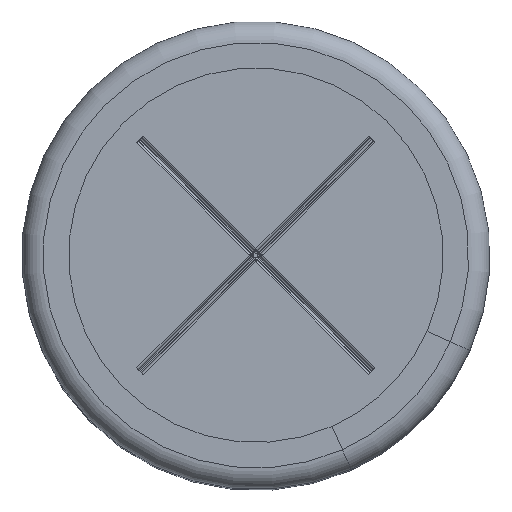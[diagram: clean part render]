
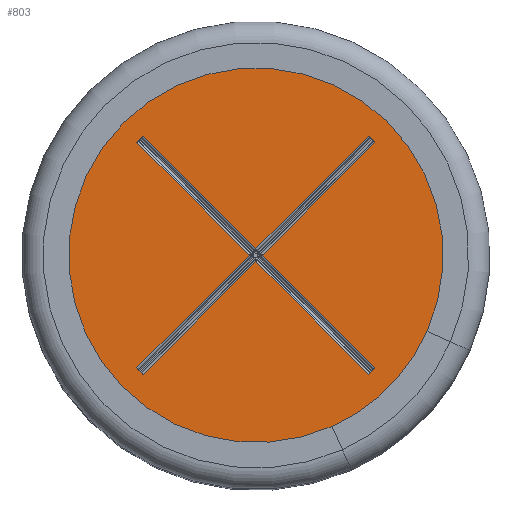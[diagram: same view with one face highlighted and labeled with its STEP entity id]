
A CAD part, top view. The second image highlights one B-rep face of the part: STEP entity #803.
In plain terms, the highlighted planar face has unit normal (0, 0, 1).
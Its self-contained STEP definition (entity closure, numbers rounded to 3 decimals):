
#176=FACE_BOUND('',#1284,.T.);
#177=FACE_BOUND('',#1285,.T.);
#687=PLANE('',#4047);
#803=ADVANCED_FACE('',(#176,#177),#687,.T.);
#1284=EDGE_LOOP('',(#2130));
#1285=EDGE_LOOP('',(#2131,#2132,#2133,#2134,#2135,#2136,#2137,#2138,#2139,
#2140,#2141,#2142));
#1517=LINE('',#5710,#1771);
#1518=LINE('',#5713,#1772);
#1519=LINE('',#5715,#1773);
#1520=LINE('',#5717,#1774);
#1521=LINE('',#5719,#1775);
#1522=LINE('',#5721,#1776);
#1523=LINE('',#5723,#1777);
#1524=LINE('',#5725,#1778);
#1525=LINE('',#5727,#1779);
#1526=LINE('',#5729,#1780);
#1527=LINE('',#5731,#1781);
#1528=LINE('',#5733,#1782);
#1771=VECTOR('',#4590,1.);
#1772=VECTOR('',#4591,1.);
#1773=VECTOR('',#4592,1.);
#1774=VECTOR('',#4593,1.);
#1775=VECTOR('',#4594,1.);
#1776=VECTOR('',#4595,1.);
#1777=VECTOR('',#4596,1.);
#1778=VECTOR('',#4597,1.);
#1779=VECTOR('',#4598,1.);
#1780=VECTOR('',#4599,1.);
#1781=VECTOR('',#4600,1.);
#1782=VECTOR('',#4601,1.);
#2130=ORIENTED_EDGE('',*,*,#3368,.F.);
#2131=ORIENTED_EDGE('',*,*,#3369,.T.);
#2132=ORIENTED_EDGE('',*,*,#3370,.T.);
#2133=ORIENTED_EDGE('',*,*,#3371,.T.);
#2134=ORIENTED_EDGE('',*,*,#3372,.F.);
#2135=ORIENTED_EDGE('',*,*,#3373,.T.);
#2136=ORIENTED_EDGE('',*,*,#3374,.T.);
#2137=ORIENTED_EDGE('',*,*,#3375,.F.);
#2138=ORIENTED_EDGE('',*,*,#3376,.T.);
#2139=ORIENTED_EDGE('',*,*,#3377,.T.);
#2140=ORIENTED_EDGE('',*,*,#3378,.T.);
#2141=ORIENTED_EDGE('',*,*,#3379,.T.);
#2142=ORIENTED_EDGE('',*,*,#3380,.T.);
#3038=VERTEX_POINT('',#5709);
#3039=VERTEX_POINT('',#5711);
#3040=VERTEX_POINT('',#5712);
#3041=VERTEX_POINT('',#5714);
#3042=VERTEX_POINT('',#5716);
#3043=VERTEX_POINT('',#5718);
#3044=VERTEX_POINT('',#5720);
#3045=VERTEX_POINT('',#5722);
#3046=VERTEX_POINT('',#5724);
#3047=VERTEX_POINT('',#5726);
#3048=VERTEX_POINT('',#5728);
#3049=VERTEX_POINT('',#5730);
#3050=VERTEX_POINT('',#5732);
#3368=EDGE_CURVE('',#3038,#3038,#3826,.T.);
#3369=EDGE_CURVE('',#3039,#3040,#1517,.T.);
#3370=EDGE_CURVE('',#3040,#3041,#1518,.T.);
#3371=EDGE_CURVE('',#3041,#3042,#1519,.T.);
#3372=EDGE_CURVE('',#3043,#3042,#1520,.T.);
#3373=EDGE_CURVE('',#3043,#3044,#1521,.T.);
#3374=EDGE_CURVE('',#3044,#3045,#1522,.T.);
#3375=EDGE_CURVE('',#3046,#3045,#1523,.T.);
#3376=EDGE_CURVE('',#3046,#3047,#1524,.T.);
#3377=EDGE_CURVE('',#3047,#3048,#1525,.T.);
#3378=EDGE_CURVE('',#3048,#3049,#1526,.T.);
#3379=EDGE_CURVE('',#3049,#3050,#1527,.T.);
#3380=EDGE_CURVE('',#3050,#3039,#1528,.T.);
#3826=CIRCLE('',#4046,10.);
#4046=AXIS2_PLACEMENT_3D('',#5708,#4588,#4589);
#4047=AXIS2_PLACEMENT_3D('',#5734,#4602,#4603);
#4588=DIRECTION('',(0.,0.,-1.));
#4589=DIRECTION('',(-1.,0.,0.));
#4590=DIRECTION('',(0.707,-0.707,0.));
#4591=DIRECTION('',(-0.707,-0.707,0.));
#4592=DIRECTION('',(0.707,-0.707,0.));
#4593=DIRECTION('',(0.707,0.707,0.));
#4594=DIRECTION('',(-0.707,0.707,0.));
#4595=DIRECTION('',(-0.707,-0.707,0.));
#4596=DIRECTION('',(0.707,-0.707,0.));
#4597=DIRECTION('',(0.707,0.707,0.));
#4598=DIRECTION('',(-0.707,0.707,0.));
#4599=DIRECTION('',(0.707,0.707,0.));
#4600=DIRECTION('',(0.707,-0.707,0.));
#4601=DIRECTION('',(0.707,0.707,0.));
#4602=DIRECTION('',(0.,0.,1.));
#4603=DIRECTION('',(1.,0.,0.));
#5708=CARTESIAN_POINT('',(0.,0.,34.8));
#5709=CARTESIAN_POINT('',(-10.,0.,34.8));
#5710=CARTESIAN_POINT('',(5.339,5.551,34.8));
#5711=CARTESIAN_POINT('',(5.295,5.594,34.8));
#5712=CARTESIAN_POINT('',(5.594,5.295,34.8));
#5713=CARTESIAN_POINT('',(-4.85,-5.15,34.8));
#5714=CARTESIAN_POINT('',(0.3,0.,34.8));
#5715=CARTESIAN_POINT('',(-4.85,5.15,34.8));
#5716=CARTESIAN_POINT('',(5.594,-5.295,34.8));
#5717=CARTESIAN_POINT('',(5.551,-5.339,34.8));
#5718=CARTESIAN_POINT('',(5.295,-5.594,34.8));
#5719=CARTESIAN_POINT('',(-5.15,4.85,34.8));
#5720=CARTESIAN_POINT('',(0.,-0.3,34.8));
#5721=CARTESIAN_POINT('',(-4.85,-5.15,34.8));
#5722=CARTESIAN_POINT('',(-5.295,-5.594,34.8));
#5723=CARTESIAN_POINT('',(-5.551,-5.339,34.8));
#5724=CARTESIAN_POINT('',(-5.594,-5.295,34.8));
#5725=CARTESIAN_POINT('',(-5.15,-4.85,34.8));
#5726=CARTESIAN_POINT('',(-0.3,0.,34.8));
#5727=CARTESIAN_POINT('',(-5.15,4.85,34.8));
#5728=CARTESIAN_POINT('',(-5.594,5.295,34.8));
#5729=CARTESIAN_POINT('',(-5.339,5.551,34.8));
#5730=CARTESIAN_POINT('',(-5.295,5.594,34.8));
#5731=CARTESIAN_POINT('',(-4.85,5.15,34.8));
#5732=CARTESIAN_POINT('',(0.,0.3,34.8));
#5733=CARTESIAN_POINT('',(-5.15,-4.85,34.8));
#5734=CARTESIAN_POINT('',(-10.,0.,34.8));
